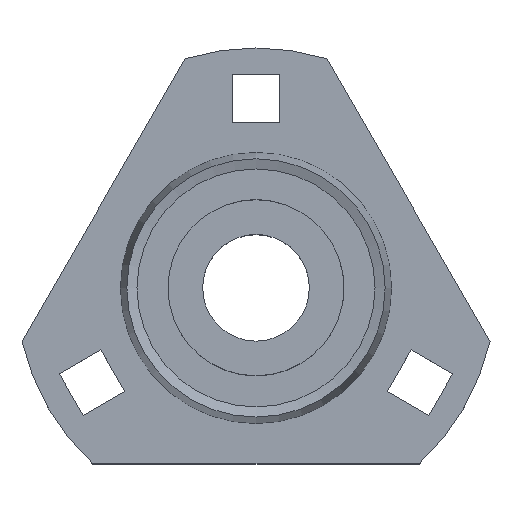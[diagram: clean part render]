
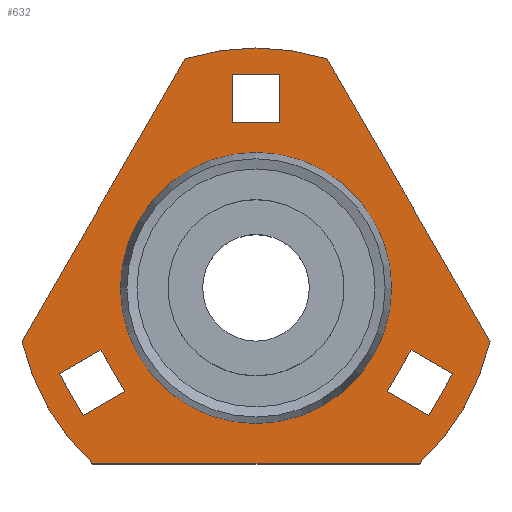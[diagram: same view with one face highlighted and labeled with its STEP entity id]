
A CAD part, top view. The second image highlights one B-rep face of the part: STEP entity #632.
In plain terms, the highlighted planar face has unit normal (0, 0, 1).
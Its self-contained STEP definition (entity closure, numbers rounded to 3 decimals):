
#122=CARTESIAN_POINT('',(-43.876,-9.995,2.0));
#123=VERTEX_POINT('',#122);
#130=CARTESIAN_POINT('',(-13.282,42.995,2.0));
#131=VERTEX_POINT('',#130);
#132=CARTESIAN_POINT('',(-43.876,-9.995,2.0));
#133=DIRECTION('',(0.5,0.866,0.0));
#134=VECTOR('',#133,61.188);
#135=LINE('',#132,#134);
#136=EDGE_CURVE('',#123,#131,#135,.T.);
#162=CARTESIAN_POINT('',(13.282,42.995,2.0));
#163=VERTEX_POINT('',#162);
#170=CARTESIAN_POINT('',(43.876,-9.995,2.0));
#171=VERTEX_POINT('',#170);
#172=CARTESIAN_POINT('',(13.282,42.995,2.0));
#173=DIRECTION('',(0.5,-0.866,0.0));
#174=VECTOR('',#173,61.188);
#175=LINE('',#172,#174);
#176=EDGE_CURVE('',#163,#171,#175,.T.);
#202=CARTESIAN_POINT('',(30.594,-33.0,2.0));
#203=VERTEX_POINT('',#202);
#210=CARTESIAN_POINT('',(-30.594,-33.0,2.0));
#211=VERTEX_POINT('',#210);
#212=CARTESIAN_POINT('',(30.594,-33.0,2.0));
#213=DIRECTION('',(-1.0,0.0,0.0));
#214=VECTOR('',#213,61.188);
#215=LINE('',#212,#214);
#216=EDGE_CURVE('',#203,#211,#215,.T.);
#378=CARTESIAN_POINT('',(0.0,0.0,2.0));
#379=DIRECTION('',(0.0,0.0,-1.0));
#380=DIRECTION('',(-1.0,0.0,0.0));
#381=AXIS2_PLACEMENT_3D('',#378,#379,#380);
#382=CIRCLE('',#381,45.0);
#383=EDGE_CURVE('',#211,#123,#382,.T.);
#396=CARTESIAN_POINT('',(0.0,0.0,2.0));
#397=DIRECTION('',(0.0,0.0,-1.0));
#398=DIRECTION('',(-1.0,0.0,0.0));
#399=AXIS2_PLACEMENT_3D('',#396,#397,#398);
#400=CIRCLE('',#399,45.0);
#401=EDGE_CURVE('',#171,#203,#400,.T.);
#493=CARTESIAN_POINT('',(0.0,25.42,2.));
#494=VERTEX_POINT('',#493);
#495=CARTESIAN_POINT('',(0.0,0.0,2.0));
#496=DIRECTION('',(0.0,0.0,-1.0));
#497=DIRECTION('',(0.0,1.0,0.0));
#498=AXIS2_PLACEMENT_3D('',#495,#496,#497);
#499=CIRCLE('',#498,25.42);
#500=EDGE_CURVE('',#494,#494,#499,.T.);
#508=CARTESIAN_POINT('',(0.0,0.0,2.0));
#509=DIRECTION('',(0.0,0.0,-1.0));
#510=DIRECTION('',(-1.0,0.0,0.0));
#511=AXIS2_PLACEMENT_3D('',#508,#509,#510);
#512=PLANE('',#511);
#513=ORIENTED_EDGE('',*,*,#176,.F.);
#514=CARTESIAN_POINT('',(0.0,0.0,2.0));
#515=DIRECTION('',(0.0,0.0,-1.0));
#516=DIRECTION('',(-1.0,0.0,0.0));
#517=AXIS2_PLACEMENT_3D('',#514,#515,#516);
#518=CIRCLE('',#517,45.0);
#519=EDGE_CURVE('',#131,#163,#518,.T.);
#520=ORIENTED_EDGE('',*,*,#519,.F.);
#521=ORIENTED_EDGE('',*,*,#136,.F.);
#522=ORIENTED_EDGE('',*,*,#383,.F.);
#523=ORIENTED_EDGE('',*,*,#216,.F.);
#524=ORIENTED_EDGE('',*,*,#401,.F.);
#525=EDGE_LOOP('',(#513,#520,#521,#522,#523,#524));
#526=FACE_OUTER_BOUND('',#525,.T.);
#527=CARTESIAN_POINT('',(4.5,40.0,2.0));
#528=VERTEX_POINT('',#527);
#529=CARTESIAN_POINT('',(4.5,31.0,2.0));
#530=VERTEX_POINT('',#529);
#531=CARTESIAN_POINT('',(4.5,40.0,2.0));
#532=DIRECTION('',(0.0,-1.0,0.0));
#533=VECTOR('',#532,9.0);
#534=LINE('',#531,#533);
#535=EDGE_CURVE('',#528,#530,#534,.T.);
#536=ORIENTED_EDGE('',*,*,#535,.T.);
#537=CARTESIAN_POINT('',(-4.5,31.,2.0));
#538=VERTEX_POINT('',#537);
#539=CARTESIAN_POINT('',(4.5,31.0,2.0));
#540=DIRECTION('',(-1.0,0.0,0.0));
#541=VECTOR('',#540,9.0);
#542=LINE('',#539,#541);
#543=EDGE_CURVE('',#530,#538,#542,.T.);
#544=ORIENTED_EDGE('',*,*,#543,.T.);
#545=CARTESIAN_POINT('',(-4.5,40.,2.0));
#546=VERTEX_POINT('',#545);
#547=CARTESIAN_POINT('',(-4.5,31.,2.0));
#548=DIRECTION('',(0.0,1.0,0.0));
#549=VECTOR('',#548,9.);
#550=LINE('',#547,#549);
#551=EDGE_CURVE('',#538,#546,#550,.T.);
#552=ORIENTED_EDGE('',*,*,#551,.T.);
#553=CARTESIAN_POINT('',(-4.5,40.0,2.0));
#554=DIRECTION('',(1.0,0.0,0.0));
#555=VECTOR('',#554,9.0);
#556=LINE('',#553,#555);
#557=EDGE_CURVE('',#546,#528,#556,.T.);
#558=ORIENTED_EDGE('',*,*,#557,.T.);
#559=EDGE_LOOP('',(#536,#544,#552,#558));
#560=FACE_BOUND('',#559,.T.);
#561=CARTESIAN_POINT('',(-36.891,-16.103,2.0));
#562=VERTEX_POINT('',#561);
#563=CARTESIAN_POINT('',(-29.097,-11.603,2.0));
#564=VERTEX_POINT('',#563);
#565=CARTESIAN_POINT('',(-36.891,-16.103,2.0));
#566=DIRECTION('',(0.866,0.5,0.0));
#567=VECTOR('',#566,9.);
#568=LINE('',#565,#567);
#569=EDGE_CURVE('',#562,#564,#568,.T.);
#570=ORIENTED_EDGE('',*,*,#569,.T.);
#571=CARTESIAN_POINT('',(-24.597,-19.397,2.0));
#572=VERTEX_POINT('',#571);
#573=CARTESIAN_POINT('',(-29.097,-11.603,2.0));
#574=DIRECTION('',(0.5,-0.866,0.0));
#575=VECTOR('',#574,9.0);
#576=LINE('',#573,#575);
#577=EDGE_CURVE('',#564,#572,#576,.T.);
#578=ORIENTED_EDGE('',*,*,#577,.T.);
#579=CARTESIAN_POINT('',(-32.391,-23.897,2.0));
#580=VERTEX_POINT('',#579);
#581=CARTESIAN_POINT('',(-24.597,-19.397,2.0));
#582=DIRECTION('',(-0.866,-0.5,0.0));
#583=VECTOR('',#582,9.);
#584=LINE('',#581,#583);
#585=EDGE_CURVE('',#572,#580,#584,.T.);
#586=ORIENTED_EDGE('',*,*,#585,.T.);
#587=CARTESIAN_POINT('',(-32.391,-23.897,2.0));
#588=DIRECTION('',(-0.5,0.866,0.0));
#589=VECTOR('',#588,9.);
#590=LINE('',#587,#589);
#591=EDGE_CURVE('',#580,#562,#590,.T.);
#592=ORIENTED_EDGE('',*,*,#591,.T.);
#593=EDGE_LOOP('',(#570,#578,#586,#592));
#594=FACE_BOUND('',#593,.T.);
#595=CARTESIAN_POINT('',(32.391,-23.897,2.0));
#596=VERTEX_POINT('',#595);
#597=CARTESIAN_POINT('',(24.597,-19.397,2.0));
#598=VERTEX_POINT('',#597);
#599=CARTESIAN_POINT('',(32.391,-23.897,2.0));
#600=DIRECTION('',(-0.866,0.5,0.0));
#601=VECTOR('',#600,9.);
#602=LINE('',#599,#601);
#603=EDGE_CURVE('',#596,#598,#602,.T.);
#604=ORIENTED_EDGE('',*,*,#603,.T.);
#605=CARTESIAN_POINT('',(29.097,-11.603,2.0));
#606=VERTEX_POINT('',#605);
#607=CARTESIAN_POINT('',(24.597,-19.397,2.0));
#608=DIRECTION('',(0.5,0.866,0.0));
#609=VECTOR('',#608,9.);
#610=LINE('',#607,#609);
#611=EDGE_CURVE('',#598,#606,#610,.T.);
#612=ORIENTED_EDGE('',*,*,#611,.T.);
#613=CARTESIAN_POINT('',(36.891,-16.103,2.0));
#614=VERTEX_POINT('',#613);
#615=CARTESIAN_POINT('',(29.097,-11.603,2.0));
#616=DIRECTION('',(0.866,-0.5,0.0));
#617=VECTOR('',#616,9.);
#618=LINE('',#615,#617);
#619=EDGE_CURVE('',#606,#614,#618,.T.);
#620=ORIENTED_EDGE('',*,*,#619,.T.);
#621=CARTESIAN_POINT('',(36.891,-16.103,2.0));
#622=DIRECTION('',(-0.5,-0.866,0.0));
#623=VECTOR('',#622,9.0);
#624=LINE('',#621,#623);
#625=EDGE_CURVE('',#614,#596,#624,.T.);
#626=ORIENTED_EDGE('',*,*,#625,.T.);
#627=EDGE_LOOP('',(#604,#612,#620,#626));
#628=FACE_BOUND('',#627,.T.);
#629=ORIENTED_EDGE('',*,*,#500,.T.);
#630=EDGE_LOOP('',(#629));
#631=FACE_BOUND('',#630,.T.);
#632=ADVANCED_FACE('',(#526,#560,#594,#628,#631),#512,.F.);
